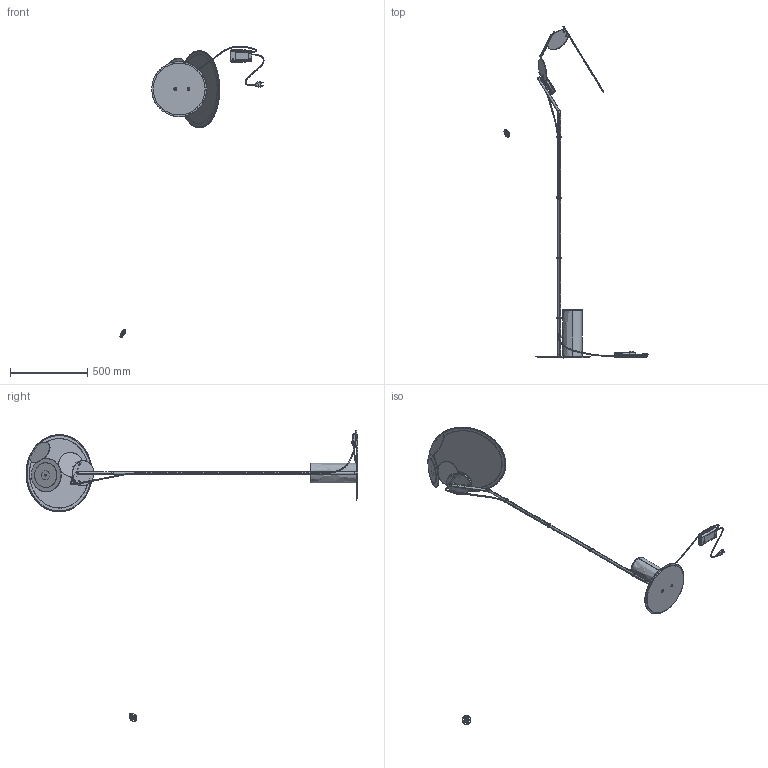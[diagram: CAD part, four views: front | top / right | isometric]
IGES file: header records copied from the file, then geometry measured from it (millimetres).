
Start section: SolidWorks IGES file using analytic representation for surfaces
Global section: file name: D:\OneDrive\Projects\AXO067 CUT II\DRAW\3D\STEP-IGES\CUT-FLOOR_1.IGS; native system: SolidWorks 2019; preprocessor: SolidWorks 2019; author: tecnico8; date: 190725.160014; units: millimetre
Bounding box: 930.71 x 2145.35 x 1882.9 mm (x, y, z)
Surface area: 1937990.1 mm2 (no closed solid volume)
Topology: 0 solids, 0 shells, 2222 faces, 24415 edges, 24369 vertices
Faces by surface type: bspline 1357, revolution 865
